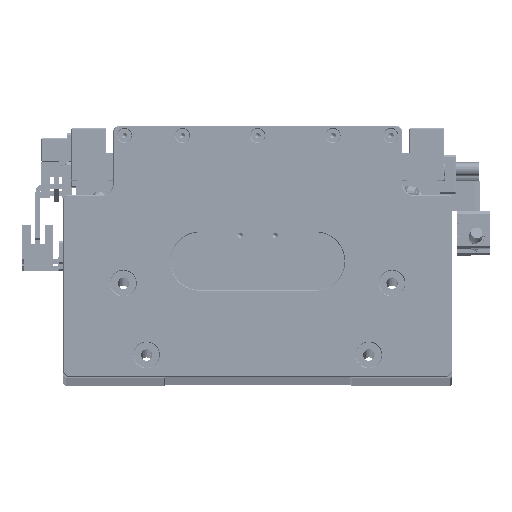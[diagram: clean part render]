
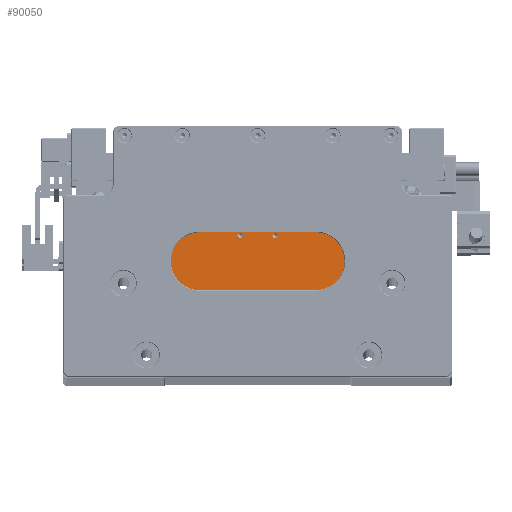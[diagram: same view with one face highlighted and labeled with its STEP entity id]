
A CAD part, top view. The second image highlights one B-rep face of the part: STEP entity #90050.
In plain terms, the highlighted planar face has unit normal (0, 0, 1).
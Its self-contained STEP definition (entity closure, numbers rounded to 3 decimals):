
#31 = DIRECTION ( 'NONE',  ( 1., 0., 0. ) ) ;
#83 = ORIENTED_EDGE ( 'NONE', *, *, #22381, .F. ) ;
#3064 = VERTEX_POINT ( 'NONE', #6232 ) ;
#3583 = DIRECTION ( 'NONE',  ( 1., 0., 0. ) ) ;
#4524 = FACE_BOUND ( 'NONE', #48139, .T. ) ;
#4563 = EDGE_LOOP ( 'NONE', ( #18745, #41947 ) ) ;
#5807 = VERTEX_POINT ( 'NONE', #41831 ) ;
#6079 = DIRECTION ( 'NONE',  ( 0., 0., -1. ) ) ;
#6232 = CARTESIAN_POINT ( 'NONE',  ( -8.75, -8., 125. ) ) ;
#6837 = DIRECTION ( 'NONE',  ( 0., 1., 0. ) ) ;
#7544 = VECTOR ( 'NONE', #89218, 1000. ) ;
#8857 = VECTOR ( 'NONE', #58175, 1000. ) ;
#12922 = VERTEX_POINT ( 'NONE', #114555 ) ;
#13413 = ORIENTED_EDGE ( 'NONE', *, *, #59657, .T. ) ;
#14580 = CARTESIAN_POINT ( 'NONE',  ( 0., 0., 125. ) ) ;
#17072 = EDGE_CURVE ( 'NONE', #73717, #5807, #45567, .T. ) ;
#18745 = ORIENTED_EDGE ( 'NONE', *, *, #64508, .T. ) ;
#19153 = ORIENTED_EDGE ( 'NONE', *, *, #123520, .T. ) ;
#20703 = DIRECTION ( 'NONE',  ( 0., 0., -1. ) ) ;
#21092 = DIRECTION ( 'NONE',  ( -1., 0., 0. ) ) ;
#22381 = EDGE_CURVE ( 'NONE', #104143, #5807, #37506, .T. ) ;
#22776 = AXIS2_PLACEMENT_3D ( 'NONE', #118329, #60919, #3583 ) ;
#24189 = DIRECTION ( 'NONE',  ( -1., 0., 0. ) ) ;
#24197 = EDGE_CURVE ( 'NONE', #102106, #123320, #115081, .T. ) ;
#27039 = CARTESIAN_POINT ( 'NONE',  ( 33.5, 0., 125. ) ) ;
#27393 = CARTESIAN_POINT ( 'NONE',  ( 0., 0., 125. ) ) ;
#30328 = ORIENTED_EDGE ( 'NONE', *, *, #30840, .T. ) ;
#30840 = EDGE_CURVE ( 'NONE', #3064, #108811, #62888, .T. ) ;
#31699 = CARTESIAN_POINT ( 'NONE',  ( -6.25, -8., 125. ) ) ;
#32976 = VERTEX_POINT ( 'NONE', #42483 ) ;
#33519 = AXIS2_PLACEMENT_3D ( 'NONE', #78024, #20703, #87705 ) ;
#36002 = LINE ( 'NONE', #107695, #7544 ) ;
#37506 = LINE ( 'NONE', #68797, #85438 ) ;
#40466 = CIRCLE ( 'NONE', #33519, 1.25 ) ;
#41831 = CARTESIAN_POINT ( 'NONE',  ( -45., -40.2, 125. ) ) ;
#41947 = ORIENTED_EDGE ( 'NONE', *, *, #80708, .T. ) ;
#42483 = CARTESIAN_POINT ( 'NONE',  ( 33.5, -8., 125. ) ) ;
#43082 = ORIENTED_EDGE ( 'NONE', *, *, #90746, .T. ) ;
#45169 = AXIS2_PLACEMENT_3D ( 'NONE', #63398, #6079, #72999 ) ;
#45567 = LINE ( 'NONE', #82701, #93486 ) ;
#46425 = FACE_BOUND ( 'NONE', #4563, .T. ) ;
#46632 = DIRECTION ( 'NONE',  ( 0., 0., 1. ) ) ;
#48139 = EDGE_LOOP ( 'NONE', ( #64574, #30328 ) ) ;
#49261 = VERTEX_POINT ( 'NONE', #86942 ) ;
#49345 = LINE ( 'NONE', #27039, #122828 ) ;
#49815 = CARTESIAN_POINT ( 'NONE',  ( 6.25, -8., 125. ) ) ;
#50095 = CARTESIAN_POINT ( 'NONE',  ( 45., -40.2, 125. ) ) ;
#51439 = VECTOR ( 'NONE', #76393, 1000. ) ;
#52393 = AXIS2_PLACEMENT_3D ( 'NONE', #114787, #57319, #31 ) ;
#52418 = LINE ( 'NONE', #121595, #74884 ) ;
#54445 = LINE ( 'NONE', #104915, #51439 ) ;
#54752 = CIRCLE ( 'NONE', #22776, 1.25 ) ;
#55892 = DIRECTION ( 'NONE',  ( 0., 1., 0. ) ) ;
#56537 = ORIENTED_EDGE ( 'NONE', *, *, #110605, .T. ) ;
#57319 = DIRECTION ( 'NONE',  ( 0., 0., -1. ) ) ;
#58175 = DIRECTION ( 'NONE',  ( -1., 0., 0. ) ) ;
#58626 = VERTEX_POINT ( 'NONE', #49815 ) ;
#59657 = EDGE_CURVE ( 'NONE', #123320, #12922, #54445, .T. ) ;
#59761 = LINE ( 'NONE', #115626, #8857 ) ;
#60919 = DIRECTION ( 'NONE',  ( 0., 0., -1. ) ) ;
#61974 = ORIENTED_EDGE ( 'NONE', *, *, #109942, .T. ) ;
#62888 = CIRCLE ( 'NONE', #45169, 1.25 ) ;
#63398 = CARTESIAN_POINT ( 'NONE',  ( -7.5, -8., 125. ) ) ;
#64065 = VECTOR ( 'NONE', #24189, 1000. ) ;
#64508 = EDGE_CURVE ( 'NONE', #49261, #58626, #113679, .T. ) ;
#64574 = ORIENTED_EDGE ( 'NONE', *, *, #86032, .T. ) ;
#67936 = ORIENTED_EDGE ( 'NONE', *, *, #24197, .T. ) ;
#68797 = CARTESIAN_POINT ( 'NONE',  ( 45., -40.2, 125. ) ) ;
#71844 = FACE_OUTER_BOUND ( 'NONE', #106645, .T. ) ;
#72066 = ORIENTED_EDGE ( 'NONE', *, *, #17072, .T. ) ;
#72999 = DIRECTION ( 'NONE',  ( 1., 0., 0. ) ) ;
#73066 = DIRECTION ( 'NONE',  ( 0., -1., 0. ) ) ;
#73717 = VERTEX_POINT ( 'NONE', #94684 ) ;
#74884 = VECTOR ( 'NONE', #6837, 1000. ) ;
#76393 = DIRECTION ( 'NONE',  ( 0., -1., 0. ) ) ;
#78024 = CARTESIAN_POINT ( 'NONE',  ( 7.5, -8., 125. ) ) ;
#79288 = CARTESIAN_POINT ( 'NONE',  ( -33.5, 0., 125. ) ) ;
#80708 = EDGE_CURVE ( 'NONE', #58626, #49261, #40466, .T. ) ;
#82701 = CARTESIAN_POINT ( 'NONE',  ( -45., 0., 125. ) ) ;
#84719 = PLANE ( 'NONE',  #122583 ) ;
#85438 = VECTOR ( 'NONE', #21092, 1000. ) ;
#85535 = VERTEX_POINT ( 'NONE', #101684 ) ;
#86032 = EDGE_CURVE ( 'NONE', #108811, #3064, #54752, .T. ) ;
#86635 = CARTESIAN_POINT ( 'NONE',  ( 33.5, 0., 125. ) ) ;
#86942 = CARTESIAN_POINT ( 'NONE',  ( 8.75, -8., 125. ) ) ;
#87705 = DIRECTION ( 'NONE',  ( 1., 0., 0. ) ) ;
#89218 = DIRECTION ( 'NONE',  ( -1., 0., 0. ) ) ;
#90050 = ADVANCED_FACE ( 'NONE', ( #71844, #46425, #4524 ), #84719, .T. ) ;
#90746 = EDGE_CURVE ( 'NONE', #85535, #32976, #59761, .T. ) ;
#93486 = VECTOR ( 'NONE', #73066, 1000. ) ;
#94684 = CARTESIAN_POINT ( 'NONE',  ( -45., -8., 125. ) ) ;
#101684 = CARTESIAN_POINT ( 'NONE',  ( 45., -8., 125. ) ) ;
#102106 = VERTEX_POINT ( 'NONE', #86635 ) ;
#104143 = VERTEX_POINT ( 'NONE', #50095 ) ;
#104915 = CARTESIAN_POINT ( 'NONE',  ( -33.5, 0., 125. ) ) ;
#106645 = EDGE_LOOP ( 'NONE', ( #61974, #72066, #83, #19153, #43082, #56537, #67936, #13413 ) ) ;
#107695 = CARTESIAN_POINT ( 'NONE',  ( 0., -8., 125. ) ) ;
#108811 = VERTEX_POINT ( 'NONE', #31699 ) ;
#109942 = EDGE_CURVE ( 'NONE', #12922, #73717, #36002, .T. ) ;
#110605 = EDGE_CURVE ( 'NONE', #32976, #102106, #49345, .T. ) ;
#113679 = CIRCLE ( 'NONE', #52393, 1.25 ) ;
#113703 = DIRECTION ( 'NONE',  ( 1., 0., 0. ) ) ;
#114555 = CARTESIAN_POINT ( 'NONE',  ( -33.5, -8., 125. ) ) ;
#114787 = CARTESIAN_POINT ( 'NONE',  ( 7.5, -8., 125. ) ) ;
#115081 = LINE ( 'NONE', #14580, #64065 ) ;
#115626 = CARTESIAN_POINT ( 'NONE',  ( 0., -8., 125. ) ) ;
#118329 = CARTESIAN_POINT ( 'NONE',  ( -7.5, -8., 125. ) ) ;
#121595 = CARTESIAN_POINT ( 'NONE',  ( 45., 0., 125. ) ) ;
#122583 = AXIS2_PLACEMENT_3D ( 'NONE', #27393, #46632, #113703 ) ;
#122828 = VECTOR ( 'NONE', #55892, 1000. ) ;
#123320 = VERTEX_POINT ( 'NONE', #79288 ) ;
#123520 = EDGE_CURVE ( 'NONE', #104143, #85535, #52418, .T. ) ;
